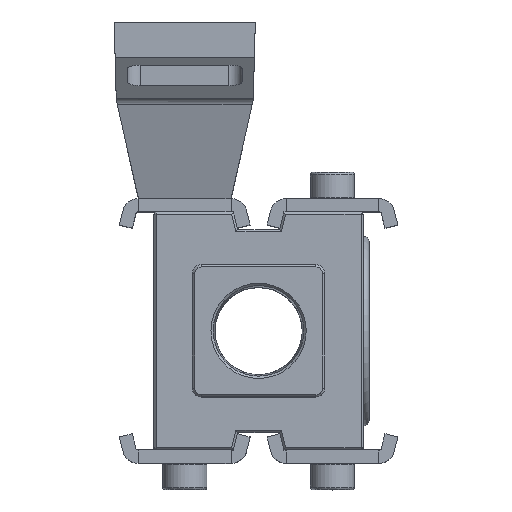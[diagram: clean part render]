
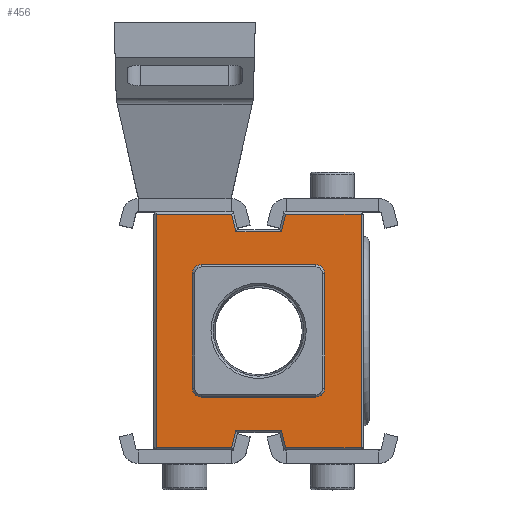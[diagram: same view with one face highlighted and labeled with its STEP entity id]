
A CAD part, top view. The second image highlights one B-rep face of the part: STEP entity #456.
In plain terms, the highlighted planar face has unit normal (0, 0, 1).
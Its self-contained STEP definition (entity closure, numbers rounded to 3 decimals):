
#456 = ADVANCED_FACE( '', ( #1298, #1299 ), #1300, .T. );
#1298 = FACE_OUTER_BOUND( '', #2597, .T. );
#1299 = FACE_BOUND( '', #2598, .T. );
#1300 = PLANE( '', #2599 );
#2597 = EDGE_LOOP( '', ( #3958, #3959, #3960, #3961, #3962, #3963, #3964, #3965, #3966, #3967, #3968, #3969 ) );
#2598 = EDGE_LOOP( '', ( #3970, #3971, #3972, #3973, #3974, #3975, #3976, #3977 ) );
#2599 = AXIS2_PLACEMENT_3D( '', #3978, #3979, #3980 );
#3958 = ORIENTED_EDGE( '', *, *, #7422, .T. );
#3959 = ORIENTED_EDGE( '', *, *, #7423, .T. );
#3960 = ORIENTED_EDGE( '', *, *, #7424, .T. );
#3961 = ORIENTED_EDGE( '', *, *, #7425, .T. );
#3962 = ORIENTED_EDGE( '', *, *, #7426, .F. );
#3963 = ORIENTED_EDGE( '', *, *, #7427, .T. );
#3964 = ORIENTED_EDGE( '', *, *, #7428, .T. );
#3965 = ORIENTED_EDGE( '', *, *, #7429, .T. );
#3966 = ORIENTED_EDGE( '', *, *, #7430, .T. );
#3967 = ORIENTED_EDGE( '', *, *, #7431, .T. );
#3968 = ORIENTED_EDGE( '', *, *, #7432, .T. );
#3969 = ORIENTED_EDGE( '', *, *, #7433, .T. );
#3970 = ORIENTED_EDGE( '', *, *, #7434, .T. );
#3971 = ORIENTED_EDGE( '', *, *, #7435, .T. );
#3972 = ORIENTED_EDGE( '', *, *, #7436, .T. );
#3973 = ORIENTED_EDGE( '', *, *, #7437, .T. );
#3974 = ORIENTED_EDGE( '', *, *, #7438, .T. );
#3975 = ORIENTED_EDGE( '', *, *, #7439, .T. );
#3976 = ORIENTED_EDGE( '', *, *, #7440, .T. );
#3977 = ORIENTED_EDGE( '', *, *, #7441, .T. );
#3978 = CARTESIAN_POINT( '', ( 69.75, 7.5, -8.7 ) );
#3979 = DIRECTION( '', ( 0., 0., 1. ) );
#3980 = DIRECTION( '', ( 1., 0., 0. ) );
#7422 = EDGE_CURVE( '', #8821, #8822, #8823, .T. );
#7423 = EDGE_CURVE( '', #8822, #8824, #8825, .T. );
#7424 = EDGE_CURVE( '', #8824, #8826, #8827, .T. );
#7425 = EDGE_CURVE( '', #8826, #8828, #8829, .T. );
#7426 = EDGE_CURVE( '', #8830, #8828, #8831, .T. );
#7427 = EDGE_CURVE( '', #8830, #8832, #8833, .T. );
#7428 = EDGE_CURVE( '', #8832, #8834, #8835, .T. );
#7429 = EDGE_CURVE( '', #8834, #8836, #8837, .T. );
#7430 = EDGE_CURVE( '', #8836, #8838, #8839, .T. );
#7431 = EDGE_CURVE( '', #8838, #8840, #8841, .T. );
#7432 = EDGE_CURVE( '', #8840, #8842, #8843, .T. );
#7433 = EDGE_CURVE( '', #8842, #8821, #8844, .T. );
#7434 = EDGE_CURVE( '', #8845, #8846, #8847, .T. );
#7435 = EDGE_CURVE( '', #8846, #8848, #8849, .T. );
#7436 = EDGE_CURVE( '', #8848, #8850, #8851, .T. );
#7437 = EDGE_CURVE( '', #8850, #8852, #8853, .T. );
#7438 = EDGE_CURVE( '', #8852, #8854, #8855, .T. );
#7439 = EDGE_CURVE( '', #8854, #8856, #8857, .T. );
#7440 = EDGE_CURVE( '', #8856, #8858, #8859, .T. );
#7441 = EDGE_CURVE( '', #8858, #8845, #8860, .T. );
#8821 = VERTEX_POINT( '', #10819 );
#8822 = VERTEX_POINT( '', #10820 );
#8823 = LINE( '', #10821, #10822 );
#8824 = VERTEX_POINT( '', #10823 );
#8825 = LINE( '', #10824, #10825 );
#8826 = VERTEX_POINT( '', #10826 );
#8827 = LINE( '', #10827, #10828 );
#8828 = VERTEX_POINT( '', #10829 );
#8829 = LINE( '', #10830, #10831 );
#8830 = VERTEX_POINT( '', #10832 );
#8831 = LINE( '', #10833, #10834 );
#8832 = VERTEX_POINT( '', #10835 );
#8833 = LINE( '', #10836, #10837 );
#8834 = VERTEX_POINT( '', #10838 );
#8835 = LINE( '', #10839, #10840 );
#8836 = VERTEX_POINT( '', #10841 );
#8837 = LINE( '', #10842, #10843 );
#8838 = VERTEX_POINT( '', #10844 );
#8839 = LINE( '', #10845, #10846 );
#8840 = VERTEX_POINT( '', #10847 );
#8841 = LINE( '', #10848, #10849 );
#8842 = VERTEX_POINT( '', #10850 );
#8843 = LINE( '', #10851, #10852 );
#8844 = LINE( '', #10853, #10854 );
#8845 = VERTEX_POINT( '', #10855 );
#8846 = VERTEX_POINT( '', #10856 );
#8847 = LINE( '', #10857, #10858 );
#8848 = VERTEX_POINT( '', #10859 );
#8849 = CIRCLE( '', #10860, 2. );
#8850 = VERTEX_POINT( '', #10861 );
#8851 = LINE( '', #10862, #10863 );
#8852 = VERTEX_POINT( '', #10864 );
#8853 = CIRCLE( '', #10865, 2. );
#8854 = VERTEX_POINT( '', #10866 );
#8855 = LINE( '', #10867, #10868 );
#8856 = VERTEX_POINT( '', #10869 );
#8857 = CIRCLE( '', #10870, 2. );
#8858 = VERTEX_POINT( '', #10871 );
#8859 = LINE( '', #10872, #10873 );
#8860 = CIRCLE( '', #10874, 2. );
#10819 = CARTESIAN_POINT( '', ( 93., -26.5, -8.7 ) );
#10820 = CARTESIAN_POINT( '', ( 93., 26.5, -8.7 ) );
#10821 = CARTESIAN_POINT( '', ( 93., 0., -8.7 ) );
#10822 = VECTOR( '', #13655, 1000. );
#10823 = CARTESIAN_POINT( '', ( 75.89, 26.5, -8.7 ) );
#10824 = CARTESIAN_POINT( '', ( 84.445, 26.5, -8.7 ) );
#10825 = VECTOR( '', #13656, 1000. );
#10826 = CARTESIAN_POINT( '', ( 74.89, 22.5, -8.7 ) );
#10827 = CARTESIAN_POINT( '', ( 75.39, 24.5, -8.7 ) );
#10828 = VECTOR( '', #13657, 1000. );
#10829 = CARTESIAN_POINT( '', ( 64.61, 22.5, -8.7 ) );
#10830 = CARTESIAN_POINT( '', ( 69.75, 22.5, -8.7 ) );
#10831 = VECTOR( '', #13658, 1000. );
#10832 = CARTESIAN_POINT( '', ( 63.61, 26.5, -8.7 ) );
#10833 = CARTESIAN_POINT( '', ( 64.11, 24.5, -8.7 ) );
#10834 = VECTOR( '', #13659, 1000. );
#10835 = CARTESIAN_POINT( '', ( 46.5, 26.5, -8.7 ) );
#10836 = CARTESIAN_POINT( '', ( 55.055, 26.5, -8.7 ) );
#10837 = VECTOR( '', #13660, 1000. );
#10838 = CARTESIAN_POINT( '', ( 46.5, -26.5, -8.7 ) );
#10839 = CARTESIAN_POINT( '', ( 46.5, 0., -8.7 ) );
#10840 = VECTOR( '', #13661, 1000. );
#10841 = CARTESIAN_POINT( '', ( 63.61, -26.5, -8.7 ) );
#10842 = CARTESIAN_POINT( '', ( 55.055, -26.5, -8.7 ) );
#10843 = VECTOR( '', #13662, 1000. );
#10844 = CARTESIAN_POINT( '', ( 64.61, -22.5, -8.7 ) );
#10845 = CARTESIAN_POINT( '', ( 64.11, -24.5, -8.7 ) );
#10846 = VECTOR( '', #13663, 1000. );
#10847 = CARTESIAN_POINT( '', ( 74.89, -22.5, -8.7 ) );
#10848 = CARTESIAN_POINT( '', ( 69.75, -22.5, -8.7 ) );
#10849 = VECTOR( '', #13664, 1000. );
#10850 = CARTESIAN_POINT( '', ( 75.89, -26.5, -8.7 ) );
#10851 = CARTESIAN_POINT( '', ( 75.39, -24.5, -8.7 ) );
#10852 = VECTOR( '', #13665, 1000. );
#10853 = CARTESIAN_POINT( '', ( 84.445, -26.5, -8.7 ) );
#10854 = VECTOR( '', #13666, 1000. );
#10855 = CARTESIAN_POINT( '', ( 56.75, 15., -8.7 ) );
#10856 = CARTESIAN_POINT( '', ( 82.75, 15., -8.7 ) );
#10857 = CARTESIAN_POINT( '', ( 69.75, 15., -8.7 ) );
#10858 = VECTOR( '', #13667, 1000. );
#10859 = CARTESIAN_POINT( '', ( 84.75, 13., -8.7 ) );
#10860 = AXIS2_PLACEMENT_3D( '', #13668, #13669, #13670 );
#10861 = CARTESIAN_POINT( '', ( 84.75, -13., -8.7 ) );
#10862 = CARTESIAN_POINT( '', ( 84.75, 0., -8.7 ) );
#10863 = VECTOR( '', #13671, 1000. );
#10864 = CARTESIAN_POINT( '', ( 82.75, -15., -8.7 ) );
#10865 = AXIS2_PLACEMENT_3D( '', #13672, #13673, #13674 );
#10866 = CARTESIAN_POINT( '', ( 56.75, -15., -8.7 ) );
#10867 = CARTESIAN_POINT( '', ( 69.75, -15., -8.7 ) );
#10868 = VECTOR( '', #13675, 1000. );
#10869 = CARTESIAN_POINT( '', ( 54.75, -13., -8.7 ) );
#10870 = AXIS2_PLACEMENT_3D( '', #13676, #13677, #13678 );
#10871 = CARTESIAN_POINT( '', ( 54.75, 13., -8.7 ) );
#10872 = CARTESIAN_POINT( '', ( 54.75, 0., -8.7 ) );
#10873 = VECTOR( '', #13679, 1000. );
#10874 = AXIS2_PLACEMENT_3D( '', #13680, #13681, #13682 );
#13655 = DIRECTION( '', ( 0., 1., 0. ) );
#13656 = DIRECTION( '', ( -1., 0., 0. ) );
#13657 = DIRECTION( '', ( -0.243, -0.97, 0. ) );
#13658 = DIRECTION( '', ( -1., 0., 0. ) );
#13659 = DIRECTION( '', ( 0.243, -0.97, 0. ) );
#13660 = DIRECTION( '', ( -1., 0., 0. ) );
#13661 = DIRECTION( '', ( 0., -1., 0. ) );
#13662 = DIRECTION( '', ( 1., 0., 0. ) );
#13663 = DIRECTION( '', ( 0.243, 0.97, 0. ) );
#13664 = DIRECTION( '', ( 1., 0., 0. ) );
#13665 = DIRECTION( '', ( 0.243, -0.97, 0. ) );
#13666 = DIRECTION( '', ( 1., 0., 0. ) );
#13667 = DIRECTION( '', ( 1., 0., 0. ) );
#13668 = CARTESIAN_POINT( '', ( 82.75, 13., -8.7 ) );
#13669 = DIRECTION( '', ( 0., 0., -1. ) );
#13670 = DIRECTION( '', ( 0., 1., 0. ) );
#13671 = DIRECTION( '', ( 0., -1., 0. ) );
#13672 = CARTESIAN_POINT( '', ( 82.75, -13., -8.7 ) );
#13673 = DIRECTION( '', ( 0., 0., -1. ) );
#13674 = DIRECTION( '', ( 0., 1., 0. ) );
#13675 = DIRECTION( '', ( -1., 0., 0. ) );
#13676 = CARTESIAN_POINT( '', ( 56.75, -13., -8.7 ) );
#13677 = DIRECTION( '', ( 0., 0., -1. ) );
#13678 = DIRECTION( '', ( 0., 1., 0. ) );
#13679 = DIRECTION( '', ( 0., 1., 0. ) );
#13680 = CARTESIAN_POINT( '', ( 56.75, 13., -8.7 ) );
#13681 = DIRECTION( '', ( 0., 0., -1. ) );
#13682 = DIRECTION( '', ( 0., 1., 0. ) );
